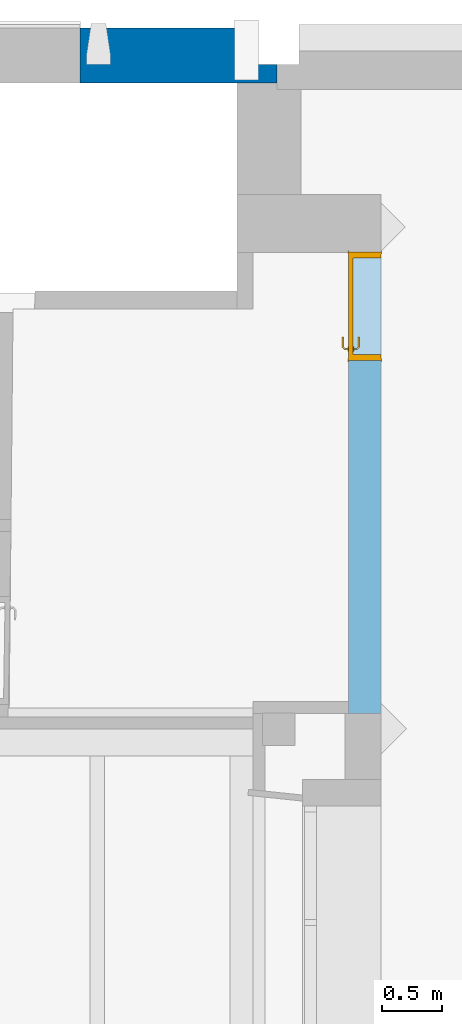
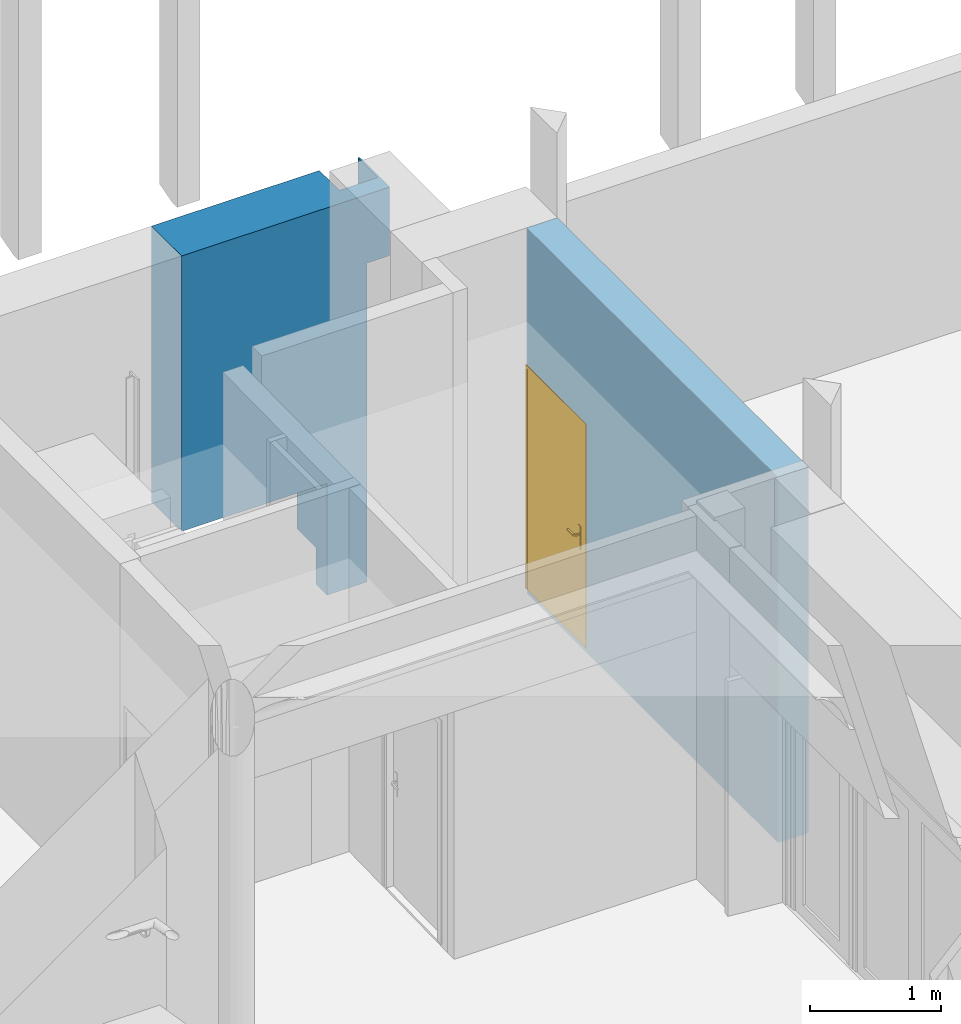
# One storey, part 44 of 65: 1 door, 1 wall, 2 openings, plus 1 element that does not belong to this part.
"""IFC4 building model written with IfcOpenShell, lengths in metres."""

from ifc_helpers import new_model, entity, si_unit, converted_unit, derived_unit, direction, frame, origin, place, context, subcontext, project, spatial, indexed_curve, outline, extrude, polygons, source, transform, mapped, material, material_list, layer, layer_set, constituent, constituent_set, type_object, type_shapes, element, fill, save


model = new_model("IFC4")

# Units and contexts
model_context = context("Model", 3, precision=1e-05, world=origin(), true_north=direction((6.12303176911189e-17, 1.0)))
body_context = subcontext(model_context, "Body", "Model", "MODEL_VIEW")
ifc_project = project(units=[si_unit("LENGTHUNIT", "METRE"), si_unit("AREAUNIT", "SQUARE_METRE"), si_unit("VOLUMEUNIT", "CUBIC_METRE"), converted_unit("PLANEANGLEUNIT", "DEGREE", entity("IfcRatioMeasure", 0.0174532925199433), si_unit("PLANEANGLEUNIT", "RADIAN"), dimensions=[0, 0, 0, 0, 0, 0, 0]), si_unit("MASSUNIT", "GRAM", prefix="KILO"), derived_unit("MASSDENSITYUNIT", [(si_unit("MASSUNIT", "GRAM", prefix="KILO"), 1), (si_unit("LENGTHUNIT", "METRE"), -3)]), derived_unit("MOMENTOFINERTIAUNIT", [(si_unit("LENGTHUNIT", "METRE"), 4)]), si_unit("TIMEUNIT", "SECOND"), si_unit("FREQUENCYUNIT", "HERTZ"), si_unit("THERMODYNAMICTEMPERATUREUNIT", "DEGREE_CELSIUS"), derived_unit("THERMALTRANSMITTANCEUNIT", [(si_unit("MASSUNIT", "GRAM", prefix="KILO"), 1), (si_unit("THERMODYNAMICTEMPERATUREUNIT", "KELVIN"), -1), (si_unit("TIMEUNIT", "SECOND"), -3)]), derived_unit("VOLUMETRICFLOWRATEUNIT", [(si_unit("LENGTHUNIT", "METRE"), 3), (si_unit("TIMEUNIT", "SECOND"), -1)]), si_unit("ELECTRICCURRENTUNIT", "AMPERE"), si_unit("ELECTRICVOLTAGEUNIT", "VOLT"), si_unit("POWERUNIT", "WATT"), si_unit("FORCEUNIT", "NEWTON", prefix="KILO"), si_unit("ILLUMINANCEUNIT", "LUX"), si_unit("LUMINOUSFLUXUNIT", "LUMEN"), si_unit("LUMINOUSINTENSITYUNIT", "CANDELA"), derived_unit("USERDEFINED", [(si_unit("MASSUNIT", "GRAM", prefix="KILO"), -1), (si_unit("LENGTHUNIT", "METRE"), -2), (si_unit("TIMEUNIT", "SECOND"), 3), (si_unit("LUMINOUSFLUXUNIT", "LUMEN"), 1)]), derived_unit("LINEARVELOCITYUNIT", [(si_unit("LENGTHUNIT", "METRE"), 1), (si_unit("TIMEUNIT", "SECOND"), -1)]), si_unit("PRESSUREUNIT", "PASCAL"), derived_unit("USERDEFINED", [(si_unit("LENGTHUNIT", "METRE"), -2), (si_unit("MASSUNIT", "GRAM", prefix="KILO"), 1), (si_unit("TIMEUNIT", "SECOND"), -2)]), derived_unit("LINEARFORCEUNIT", [(si_unit("MASSUNIT", "GRAM", prefix="KILO"), 1), (si_unit("LENGTHUNIT", "METRE"), 1), (si_unit("TIMEUNIT", "SECOND"), -2), (si_unit("LENGTHUNIT", "METRE"), -1)]), derived_unit("PLANARFORCEUNIT", [(si_unit("MASSUNIT", "GRAM", prefix="KILO"), 1), (si_unit("LENGTHUNIT", "METRE"), 1), (si_unit("TIMEUNIT", "SECOND"), -2), (si_unit("LENGTHUNIT", "METRE"), -2)])], contexts=[model_context])

# Site, building, storey
site_placement = place(None, origin())
site = spatial("IfcSite", under=ifc_project, at=site_placement, Name="Default", CompositionType="ELEMENT")
building_placement = place(site_placement, origin())
building = spatial("IfcBuilding", under=site, at=building_placement, Name="HOTEL CONSULAIRE BOULOGNE SUR MER", CompositionType="ELEMENT")
storey_placement = place(building_placement, origin())
storey = spatial("IfcBuildingStorey", under=building, at=storey_placement, Name="Niveau 0", CompositionType="ELEMENT", Elevation=1.31981936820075e-13)

# Wall, opening, door
ifc_material_1 = material(Name="Mur par défaut", Category="Divers")
ifc_layer_1 = layer(ifc_material_1, 0.27, Name="Mur par défaut", Category="Divers")
ifc_layer_set_1 = layer_set([ifc_layer_1], Name="Mur de base:Générique - Ext. 270 mm")
wall_type_1 = type_object("IfcWallType", Name="Mur de base:Générique - Ext. 270 mm", PredefinedType="NOTDEFINED", material=ifc_layer_set_1)
wall_1_placement = place(storey_placement, frame((12.1914778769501, -15.4858526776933, -0.0200000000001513), z_axis=(0.0, 0.0, 1.0), x_axis=(0.0, 1.0, 0.0)))
wall_1 = element("IfcWall", 1, at=wall_1_placement, inside=storey, type_object=wall_type_1, material=ifc_layer_set_1, Name="Mur de base:Générique - Ext. 270 mm", ObjectType="Mur de base:Générique - Ext. 270 mm", PredefinedType="NOTDEFINED", context=body_context, shape_type="Tessellation", body=[
    polygons([(3.836658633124, 0.134999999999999, 3.40652697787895), (3.836658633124, -0.135, 3.40652697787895), (3.836658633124, -0.135, 2.11500000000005), (3.836658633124, 0.134999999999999, 2.11500000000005), (0.0, -0.135, -2.15727435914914e-16), (3.836658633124, -0.135, -2.15727435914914e-16), (3.836658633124, -0.135, 0.0400000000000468), (2.93793521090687, -0.135000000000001, 0.0400000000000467), (2.93793521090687, -0.135000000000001, 2.11500000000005), (0.100000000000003, -0.135, 3.40652697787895), (0.0, -0.135, 3.40652697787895), (3.836658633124, 0.134999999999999, -2.15727435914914e-16), (0.0999999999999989, 0.134999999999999, -2.15727435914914e-16), (-2.16573425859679e-15, 0.134999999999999, -2.15727435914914e-16), (-2.16573425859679e-15, 0.134999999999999, 3.40652697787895), (0.0999999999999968, 0.134999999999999, 3.40652697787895), (2.93793521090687, 0.134999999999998, 2.11500000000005), (2.93793521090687, 0.134999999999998, 0.0400000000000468), (3.836658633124, 0.134999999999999, 0.0400000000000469)], [[[3, 4, 1, 2]], [[18, 17, 9, 8]], [[7, 6, 12, 19]], [[5, 6, 7, 8, 9, 3, 2, 10, 11]], [[19, 12, 13, 14, 15, 16, 1, 4, 17, 18]], [[6, 5, 14, 13, 12]], [[17, 4, 3, 9]], [[10, 2, 1, 16, 15, 11]], [[18, 8, 7, 19]], [[15, 14, 5, 11]]], closed=True),
])
opening_1_placement = place(wall_1_placement, frame((2.93793521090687, -0.135, 0.0400000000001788)))
opening_1 = element("IfcOpeningElement", 2, at=opening_1_placement, cuts=wall_1, Name="Int. Simple:PP (0.83m x 2.04m):1", ObjectType="Opening", PredefinedType="OPENING", context=body_context, shape_type="SweptSolid", body=[
    extrude(outline(indexed_curve([(0.0, 0.9), (0.0, 0.0), (2.075, 0.0), (2.075, 0.9), (0.0, 0.9)], self_intersect=False)), frame((0.0, 0.0, 0.0), z_axis=(0.0, 1.0, 0.0), x_axis=(0.0, 0.0, 1.0)), (0.0, 0.0, 1.0), 0.27),
])
ifc_material_2 = material(Name="Finition Peinture - Blanc satiné", Category="Peinture")
ifc_constituent_1 = constituent(ifc_material_2, Name="Finition Peinture - Blanc satiné", Category="Matériaux")
ifc_material_3 = material(Name="Bois - Panneau de porte", Category="Bois")
ifc_constituent_2 = constituent(ifc_material_3, Name="Bois - Panneau de porte", Category="Matériaux")
ifc_material_4 = material(Name="Bois - Cadre de porte", Category="Bois")
ifc_constituent_3 = constituent(ifc_material_4, Name="Bois - Cadre de porte", Category="Matériaux")
ifc_constituent_set = constituent_set(constituents=[ifc_constituent_1, ifc_constituent_2, ifc_constituent_3], Name="MaterialConstituentSet")
ifc_material_list = material_list([ifc_material_4, ifc_material_2, ifc_material_3, ifc_material_4])
door_type = type_object("IfcDoorType", Name="Int. Simple:PP (0.83m x 2.04m)", OperationType="NOTDEFINED", PredefinedType="DOOR", material=ifc_material_list)
shared_shape = source(origin(), body_context, "Body", "Tessellation", [
    polygons([(0.895000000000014, -0.00500000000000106, 0.870000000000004), (0.895000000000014, -0.00500000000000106, 1.08), (0.885352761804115, -0.00500000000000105, 1.08399601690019), (0.875000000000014, -0.00500000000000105, 1.08535898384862), (0.864647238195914, -0.00500000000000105, 1.08399601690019), (0.855000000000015, -0.00500000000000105, 1.08), (0.855000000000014, -0.00500000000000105, 0.870000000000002), (0.864647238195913, -0.00500000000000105, 0.866003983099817), (0.875000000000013, -0.00500000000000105, 0.86464101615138), (0.885352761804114, -0.00500000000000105, 0.866003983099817), (0.895000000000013, -1.08286712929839e-15, 0.870000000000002), (0.885352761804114, -1.06594733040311e-15, 0.866003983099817), (0.875000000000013, -1.06594733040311e-15, 0.86464101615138), (0.864647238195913, -1.06594733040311e-15, 0.866003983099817), (0.855000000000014, -1.06594733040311e-15, 0.870000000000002), (0.855000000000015, -1.06594733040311e-15, 1.08), (0.864647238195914, -1.06594733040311e-15, 1.08399601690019), (0.875000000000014, -1.06594733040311e-15, 1.08535898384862), (0.885352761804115, -1.06594733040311e-15, 1.08399601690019), (0.895000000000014, -1.08286712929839e-15, 1.08)], [[[1, 2, 3, 4, 5, 6, 7, 8, 9, 10]], [[20, 11, 12, 13, 14, 15, 16, 17, 18, 19]], [[10, 12, 11, 1]], [[9, 13, 12, 10]], [[8, 14, 13, 9]], [[8, 7, 15, 14]], [[15, 7, 6, 16]], [[5, 17, 16, 6]], [[4, 18, 17, 5]], [[3, 19, 18, 4]], [[3, 2, 20, 19]], [[11, 20, 2, 1]]], closed=True),
    polygons([(0.855000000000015, 0.0399999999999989, 1.08), (0.855000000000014, 0.0399999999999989, 0.870000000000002), (0.864647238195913, 0.0399999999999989, 0.866003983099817), (0.875000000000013, 0.0399999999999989, 0.86464101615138), (0.885352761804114, 0.0399999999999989, 0.866003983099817), (0.895000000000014, 0.0399999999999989, 0.870000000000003), (0.895000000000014, 0.0399999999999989, 1.08), (0.885352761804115, 0.0399999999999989, 1.08399601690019), (0.875000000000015, 0.0399999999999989, 1.08535898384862), (0.864647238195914, 0.0399999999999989, 1.08399601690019), (0.855000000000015, 0.0449999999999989, 1.08), (0.864647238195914, 0.0449999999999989, 1.08399601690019), (0.875000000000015, 0.0449999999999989, 1.08535898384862), (0.885352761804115, 0.0449999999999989, 1.08399601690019), (0.895000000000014, 0.0449999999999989, 1.08), (0.895000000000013, 0.0449999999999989, 0.870000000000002), (0.885352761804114, 0.0449999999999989, 0.866003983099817), (0.875000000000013, 0.0449999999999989, 0.86464101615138), (0.864647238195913, 0.0449999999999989, 0.866003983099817), (0.855000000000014, 0.0449999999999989, 0.870000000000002)], [[[6, 7, 8, 9, 10, 1, 2, 3, 4, 5]], [[13, 14, 15, 16, 17, 18, 19, 20, 11, 12]], [[10, 12, 11, 1]], [[9, 13, 12, 10]], [[8, 14, 13, 9]], [[8, 7, 15, 14]], [[16, 15, 7, 6]], [[5, 17, 16, 6]], [[4, 18, 17, 5]], [[3, 19, 18, 4]], [[3, 2, 20, 19]], [[20, 2, 1, 11]]], closed=True),
    polygons([(0.881000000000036, -0.00500000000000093, 1.00699999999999), (0.881000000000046, -0.00500000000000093, 0.992999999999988), (0.877025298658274, -0.00500000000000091, 0.99221955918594), (0.872974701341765, -0.00500000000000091, 0.992219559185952), (0.868999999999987, -0.00500000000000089, 0.993000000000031), (0.868999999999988, -0.00500000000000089, 1.007), (0.872974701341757, -0.00500000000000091, 1.00778044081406), (0.877025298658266, -0.00500000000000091, 1.00778044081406), (0.868999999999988, -0.0276803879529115, 1.007), (0.872974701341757, -0.0293267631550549, 1.00778044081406), (0.877025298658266, -0.0310045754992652, 1.00778044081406), (0.881000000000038, -0.0326509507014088, 1.007), (0.868999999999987, -0.0276803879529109, 0.993000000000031), (0.881000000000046, -0.0326509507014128, 0.992999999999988), (0.877025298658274, -0.0310045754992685, 0.99221955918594), (0.872974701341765, -0.0293267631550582, 0.992219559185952), (0.85765222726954, -0.0390281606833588, 1.007), (0.859298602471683, -0.0430028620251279, 1.00778044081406), (0.860976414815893, -0.0470534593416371, 1.00778044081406), (0.862622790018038, -0.0510281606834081, 1.007), (0.857652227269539, -0.0390281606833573, 0.993000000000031), (0.862622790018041, -0.0510281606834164, 0.992999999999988), (0.860976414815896, -0.047053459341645, 0.99221955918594), (0.859298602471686, -0.0430028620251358, 0.992219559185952), (0.774981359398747, -0.0510281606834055, 1.007), (0.774981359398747, -0.0470534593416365, 1.00778044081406), (0.774981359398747, -0.0430028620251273, 1.00778044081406), (0.774981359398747, -0.0390281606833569, 1.00699999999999), (0.774981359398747, -0.0390281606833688, 0.993000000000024), (0.774981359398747, -0.0430028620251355, 0.992219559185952), (0.774981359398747, -0.0470534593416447, 0.99221955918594), (0.774981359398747, -0.0510281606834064, 0.992999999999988), (0.822692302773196, -0.051028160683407, 1.007), (0.81713998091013, -0.045028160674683, 1.0078786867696), (0.816316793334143, -0.039028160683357, 1.007), (0.822692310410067, -0.0510281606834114, 0.992999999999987), (0.817139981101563, -0.0450281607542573, 0.992121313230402), (0.816316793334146, -0.0390281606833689, 0.993000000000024)], [[[7, 8, 1, 2, 3, 4, 5, 6]], [[17, 21, 38, 29, 28, 35]], [[1, 8, 11, 12]], [[8, 7, 10, 18, 19, 11]], [[7, 6, 9, 10]], [[13, 9, 6, 5]], [[25, 26, 27, 28, 29, 30, 31, 32]], [[4, 16, 13, 5]], [[4, 3, 15, 23, 24, 16]], [[2, 14, 15, 3]], [[12, 14, 2, 1]], [[12, 11, 19, 20]], [[10, 9, 17, 18]], [[21, 17, 9, 13]], [[13, 16, 24, 21]], [[15, 14, 22, 23]], [[20, 22, 14, 12]], [[34, 26, 33]], [[33, 26, 25]], [[33, 20, 19]], [[18, 35, 34]], [[35, 18, 17]], [[28, 27, 35]], [[34, 27, 26]], [[34, 35, 27]], [[34, 33, 19]], [[18, 34, 19]], [[37, 30, 38]], [[31, 37, 36]], [[24, 38, 21]], [[30, 29, 38]], [[31, 36, 32]], [[36, 23, 22]], [[37, 23, 36]], [[37, 24, 23]], [[37, 38, 24]], [[30, 37, 31]], [[22, 20, 33, 25, 32, 36]]], closed=True),
    polygons([(0.868999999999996, 0.0449999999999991, 0.993000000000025), (0.872974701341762, 0.0449999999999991, 0.992219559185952), (0.877025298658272, 0.0449999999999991, 0.99221955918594), (0.881000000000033, 0.0449999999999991, 0.992999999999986), (0.881000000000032, 0.0449999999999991, 1.007), (0.877025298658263, 0.0449999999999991, 1.00778044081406), (0.872974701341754, 0.0449999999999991, 1.00778044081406), (0.868999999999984, 0.0449999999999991, 1.007), (0.868999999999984, 0.067485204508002, 1.007), (0.868999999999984, 0.0674852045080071, 0.993000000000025), (0.881000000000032, 0.0724557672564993, 1.007), (0.877025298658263, 0.070809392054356, 1.00778044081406), (0.872974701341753, 0.0691315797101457, 1.00778044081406), (0.881000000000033, 0.0724557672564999, 0.992999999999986), (0.872974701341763, 0.0691315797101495, 0.992219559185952), (0.877025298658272, 0.0708093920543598, 0.99221955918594), (0.857514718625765, 0.0789704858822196, 1.007), (0.857514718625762, 0.0789704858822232, 0.993000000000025), (0.862485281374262, 0.0909704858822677, 1.007), (0.860838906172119, 0.0869957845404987, 1.00778044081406), (0.859161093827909, 0.0829451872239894, 1.00778044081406), (0.862485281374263, 0.0909704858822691, 0.992999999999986), (0.859161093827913, 0.0829451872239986, 0.992219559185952), (0.860838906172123, 0.0869957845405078, 0.99221955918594), (0.77495421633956, 0.0789704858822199, 0.993000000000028), (0.77495421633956, 0.0789704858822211, 1.007), (0.77495421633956, 0.0829451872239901, 1.00778044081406), (0.77495421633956, 0.0869957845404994, 1.00778044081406), (0.77495421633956, 0.0909704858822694, 1.007), (0.77495421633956, 0.0909704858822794, 0.992999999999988), (0.77495421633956, 0.086995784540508, 0.99221955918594), (0.77495421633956, 0.0829451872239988, 0.992219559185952), (0.822554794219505, 0.0909704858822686, 1.007), (0.817057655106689, 0.0849704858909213, 1.0078786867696), (0.816234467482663, 0.0789704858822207, 1.007), (0.822554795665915, 0.0909704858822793, 0.992999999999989), (0.817057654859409, 0.0849704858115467, 0.992121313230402), (0.816234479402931, 0.0789704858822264, 0.993000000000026)], [[[2, 3, 4, 5, 6, 7, 8, 1]], [[18, 17, 35, 26, 25, 38]], [[9, 10, 1, 8]], [[27, 28, 29, 30, 31, 32, 25, 26]], [[7, 13, 9, 8]], [[7, 6, 12, 20, 21, 13]], [[5, 11, 12, 6]], [[11, 5, 4, 14]], [[4, 3, 16, 14]], [[3, 2, 15, 23, 24, 16]], [[2, 1, 10, 15]], [[17, 18, 10, 9]], [[9, 13, 21, 17]], [[11, 19, 20, 12]], [[22, 19, 11, 14]], [[14, 16, 24, 22]], [[15, 10, 18, 23]], [[34, 27, 35]], [[28, 34, 33]], [[21, 35, 17]], [[27, 26, 35]], [[28, 33, 29]], [[33, 20, 19]], [[34, 20, 33]], [[34, 21, 20]], [[34, 35, 21]], [[27, 34, 28]], [[19, 22, 36, 30, 29, 33]], [[37, 31, 36]], [[36, 31, 30]], [[36, 22, 24]], [[23, 38, 37]], [[38, 23, 18]], [[25, 32, 38]], [[37, 32, 31]], [[37, 38, 32]], [[37, 36, 24]], [[23, 37, 24]]], closed=True),
    polygons([(0.935000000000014, 0.04, 2.04), (0.935000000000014, 0.04, 0.0), (0.105000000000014, 0.04, 0.0), (0.105000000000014, 0.04, 2.04), (0.935000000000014, 3.38395977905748e-17, 2.04), (0.105000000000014, 3.38395977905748e-17, 2.04), (0.105000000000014, 3.38395977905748e-17, 0.0), (0.935000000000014, 3.38395977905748e-17, 0.0)], [[[3, 4, 1, 2]], [[5, 6, 7, 8]], [[5, 1, 4, 6]], [[6, 4, 3, 7]], [[8, 7, 3, 2]], [[8, 2, 1, 5]]], closed=True),
    polygons([(0.970000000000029, 0.0, 0.0), (0.935000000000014, 0.0, 0.0), (0.935000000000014, 0.0400000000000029, 0.0), (0.920000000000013, 0.0400000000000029, 0.0), (0.920000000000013, 0.270000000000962, 0.0), (0.970000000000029, 0.270000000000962, 0.0), (0.970000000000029, 0.270000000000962, 2.07500000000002), (0.970000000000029, 0.0, 2.07500000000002), (0.920000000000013, 0.270000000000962, 2.025), (0.120000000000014, 0.270000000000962, 2.025), (0.120000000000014, 0.270000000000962, 6.02669015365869e-24), (0.0699999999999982, 0.270000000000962, 9.23443718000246e-25), (0.0699999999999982, 0.270000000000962, 2.07500000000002), (0.920000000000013, 0.0400000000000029, 2.025), (0.935000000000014, 0.0400000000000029, 2.04), (0.105000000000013, 0.0400000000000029, 2.04), (0.105000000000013, 0.0400000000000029, 1.51399294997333e-24), (0.120000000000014, 0.0400000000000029, 1.99209609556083e-25), (0.120000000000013, 0.0400000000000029, 2.025), (0.935000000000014, 0.0, 2.04), (0.0699999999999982, 0.0, 2.07500000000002), (0.0699999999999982, 0.0, 1.81925185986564e-24), (0.105000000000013, 0.0, 3.40121094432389e-24), (0.105000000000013, 0.0, 2.04)], [[[5, 6, 1, 2, 3, 4]], [[17, 23, 22, 12, 11, 18]], [[19, 10, 9, 14]], [[24, 16, 15, 20]], [[8, 1, 6, 7]], [[11, 10, 19, 18]], [[23, 17, 16, 24]], [[9, 10, 11, 12, 13, 7, 6, 5]], [[9, 5, 4, 14]], [[20, 15, 3, 2]], [[22, 21, 13, 12]], [[19, 14, 4, 3, 15, 16, 17, 18]], [[24, 20, 2, 1, 8, 21, 22, 23]], [[13, 21, 8, 7]]], closed=True),
    polygons([(0.955000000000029, 0.270000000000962, 1.35358391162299e-16), (0.955000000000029, 0.275000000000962, 1.35358391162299e-16), (0.985000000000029, 0.275000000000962, 1.35358391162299e-16), (0.985000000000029, 0.270000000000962, 1.35358391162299e-16), (0.985000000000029, 0.270000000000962, 2.09000000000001), (0.0550000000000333, 0.270000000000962, 2.09000000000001), (0.0550000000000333, 0.270000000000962, -5.44393448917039e-24), (0.0850000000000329, 0.270000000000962, 5.09144898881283e-24), (0.0850000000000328, 0.270000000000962, 2.06000000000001), (0.955000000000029, 0.270000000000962, 2.06000000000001), (0.985000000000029, 0.275000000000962, 2.09000000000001), (0.955000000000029, 0.275000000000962, 2.06000000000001), (0.0850000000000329, 0.275000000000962, 2.06000000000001), (0.0850000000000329, 0.275000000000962, -1.89153776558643e-24), (0.055000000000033, 0.275000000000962, 5.03766794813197e-24), (0.0550000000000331, 0.275000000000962, 2.09000000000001)], [[[2, 3, 4, 1]], [[7, 15, 14, 8]], [[13, 12, 10, 9]], [[9, 10, 1, 4, 5, 6, 7, 8]], [[11, 5, 4, 3]], [[8, 14, 13, 9]], [[12, 13, 14, 15, 16, 11, 3, 2]], [[10, 12, 2, 1]], [[15, 7, 6, 16]], [[16, 6, 5, 11]]], closed=True),
    polygons([(0.0850000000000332, -0.00499999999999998, -1.35358391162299e-16), (0.0550000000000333, -0.00499999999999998, -1.35358391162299e-16), (0.055000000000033, 0.0, -1.35358391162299e-16), (0.0850000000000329, 0.0, -1.35358391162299e-16), (0.955000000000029, -0.00499999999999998, 1.35358391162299e-16), (0.955000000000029, 0.0, 1.35358391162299e-16), (0.985000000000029, 0.0, 1.35358391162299e-16), (0.985000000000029, -0.00499999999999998, 1.35358391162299e-16), (0.985000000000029, -0.00499999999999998, 2.09000000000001), (0.0550000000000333, -0.00499999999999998, 2.09000000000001), (0.0850000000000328, -0.00499999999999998, 2.06000000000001), (0.955000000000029, -0.00499999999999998, 2.06000000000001), (0.985000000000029, 0.0, 2.09000000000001), (0.955000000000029, 0.0, 2.06000000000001), (0.0850000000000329, 0.0, 2.06000000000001), (0.0550000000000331, 0.0, 2.09000000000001)], [[[2, 3, 4, 1]], [[6, 7, 8, 5]], [[11, 15, 14, 12]], [[11, 12, 5, 8, 9, 10, 2, 1]], [[9, 8, 7, 13]], [[1, 4, 15, 11]], [[14, 15, 4, 3, 16, 13, 7, 6]], [[12, 14, 6, 5]], [[3, 2, 10, 16]], [[16, 10, 9, 13]]], closed=True),
])
type_shapes(door_type, [shared_shape])
door_placement = place(opening_1_placement, frame((0.970000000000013, 0.269999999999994, 0.0), z_axis=(0.0, 0.0, 1.0), x_axis=(-1.0, 0.0, 0.0)))
door = element("IfcDoor", 3, at=door_placement, inside=storey, type_object=door_type, material=ifc_constituent_set, Name="Int. Simple:PP (0.83m x 2.04m)", ObjectType="Int. Simple:PP (0.83m x 2.04m)", OperationType="NOTDEFINED", OverallHeight=2.075, OverallWidth=0.899999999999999, PredefinedType="DOOR", context=body_context, shape_type="MappedRepresentation", body=[
    mapped(shared_shape, transform((0.0, 0.0, 0.0), scale=1.0)),
])
fill(opening_1, door)

# Wall, opening
ifc_layer_2 = layer(ifc_material_1, 0.46, Name="Mur par défaut", Category="Divers")
ifc_layer_set_2 = layer_set([ifc_layer_2], Name="Mur de base:Générique - Ext.460")
wall_type_2 = type_object("IfcWallType", Name="Mur de base:Générique - Ext.460", PredefinedType="NOTDEFINED", material=ifc_layer_set_2)
wall_2_placement = place(storey_placement, frame((9.82542407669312, -10.01032416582, -0.560000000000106)))
wall_2 = element("IfcWall", 4, at=wall_2_placement, inside=storey, type_object=wall_type_2, material=ifc_layer_set_2, Name="Mur de base:Générique - Ext.460", ObjectType="Mur de base:Générique - Ext.460", PredefinedType="NOTDEFINED", context=body_context, shape_type="Tessellation", body=[
    polygons([(1.28306185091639, 0.229999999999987, 1.04259754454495), (-2.53606860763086e-16, 0.229999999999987, 1.04259754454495), (-2.53606860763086e-16, 0.229999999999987, 3.61110477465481), (1.48121422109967, 0.229999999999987, 3.61110477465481), (1.48121422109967, 0.229999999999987, 2.86400000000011), (1.48121422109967, 0.229999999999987, 2.76400000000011), (1.48121422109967, 0.229999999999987, 0.34), (1.28306185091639, 0.229999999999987, 0.34), (-5.97763408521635e-16, -0.230000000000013, 1.04259754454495), (1.28306185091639, -0.230000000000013, 1.04259754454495), (1.28306185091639, -0.230000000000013, 2.70716782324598e-16), (1.30577342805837, -0.230000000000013, 4.06075173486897e-16), (1.6355344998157, -0.230000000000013, 2.70716782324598e-16), (1.6355344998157, -0.230000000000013, 0.290000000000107), (1.6355344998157, -0.230000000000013, 0.540000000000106), (1.6355344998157, -0.230000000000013, 2.9715269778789), (1.83577342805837, -0.230000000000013, 2.9715269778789), (1.83577342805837, -0.230000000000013, 3.61110477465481), (-5.97763408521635e-16, -0.230000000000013, 3.61110477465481), (1.83577342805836, 0.229999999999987, 3.61110477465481), (1.83577342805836, 0.229999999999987, 2.9715269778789), (1.82121422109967, 0.229999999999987, 2.9715269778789), (1.82121422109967, 0.229999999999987, 3.61110477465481), (-6.21523117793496e-16, -0.223999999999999, 1.04259754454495), (-1.01751827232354e-15, -0.124, 1.04259754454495), (1.28306185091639, -0.124, 1.04259754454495), (1.28306185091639, -0.223999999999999, 1.04259754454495), (1.83577342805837, 0.0199999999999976, 3.61110477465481), (1.82121422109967, -0.0743081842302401, 3.61110477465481), (1.48121422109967, -0.0743081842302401, 3.61110477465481), (1.28306185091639, -0.0643081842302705, 0.34), (1.28306185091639, -0.0643081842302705, 2.70716782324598e-16), (1.48121422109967, -0.0643081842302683, 2.70716782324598e-16), (1.48121422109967, -0.0743081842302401, 2.70716782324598e-16), (1.6355344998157, -0.0743081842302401, 2.70716782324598e-16), (1.6355344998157, -0.203693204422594, 2.70716782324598e-16), (1.6355344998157, -0.0743081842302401, 0.000515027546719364), (1.6355344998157, -0.0743081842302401, 0.339999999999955), (1.6355344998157, -0.0743081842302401, 2.9715269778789), (1.82121422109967, -0.0743081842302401, 2.9715269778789), (1.48121422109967, -0.0643081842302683, 0.34)], [[[6, 7, 8, 1, 2, 3, 4, 5]], [[20, 21, 22, 23]], [[31, 41, 33, 32]], [[29, 40, 39, 38, 37, 35, 34, 30]], [[10, 11, 12, 13, 14, 15, 16, 17, 18, 19, 9]], [[9, 24, 25, 2, 1, 26, 27, 10]], [[34, 35, 36, 13, 12, 11, 32, 33]], [[39, 40, 22, 21, 17, 16]], [[31, 8, 7, 41]], [[18, 28, 20, 23, 29, 30, 4, 3, 19]], [[9, 19, 3, 2, 25, 24]], [[11, 10, 27, 26, 1, 8, 31, 32]], [[40, 29, 23, 22]], [[15, 14, 13, 36, 35, 37, 38, 39, 16]], [[18, 17, 21, 20, 28]], [[30, 34, 33, 41, 7, 6, 5, 4]]], closed=True),
])
opening_2_placement = place(wall_2_placement, origin())
element("IfcOpeningElement", 5, at=opening_2_placement, cuts=wall_2, Name="Mur de base:Générique - Ext.460", ObjectType="Opening", PredefinedType="OPENING", context=body_context, shape_type="SweptSolid", body=[
    extrude(outline(indexed_curve([(-0.521298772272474, -0.641530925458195), (0.521298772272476, -0.641530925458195), (0.521298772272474, 0.641530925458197), (-0.521298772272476, 0.641530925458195), (-0.521298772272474, -0.641530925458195)], self_intersect=False)), frame((0.641530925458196, 0.23, 0.521298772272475), z_axis=(0.0, -1.0, 0.0), x_axis=(0.0, 0.0, 1.0)), (0.0, 0.0, 1.0), 0.46),
])

save(model, "model.ifc")
